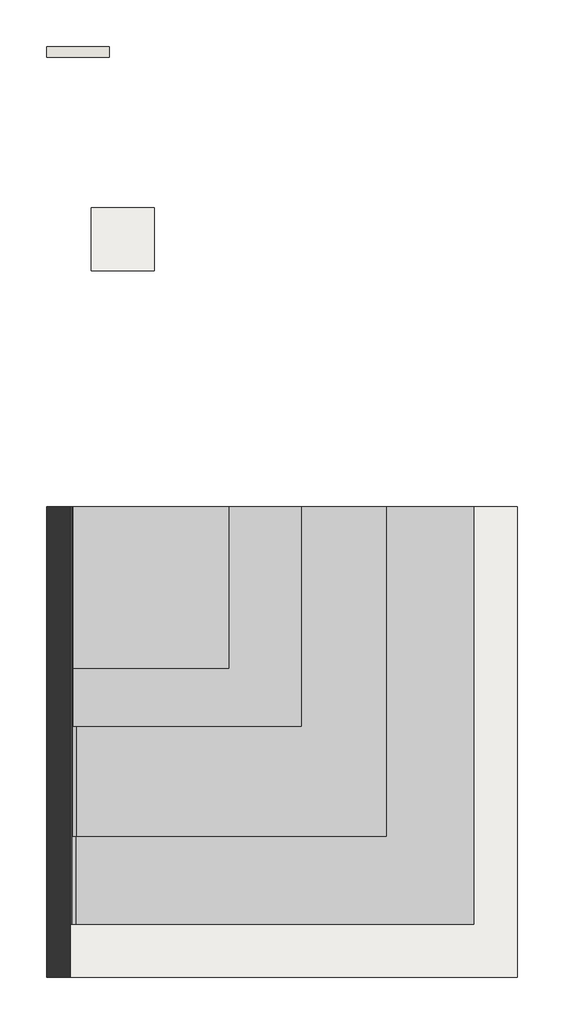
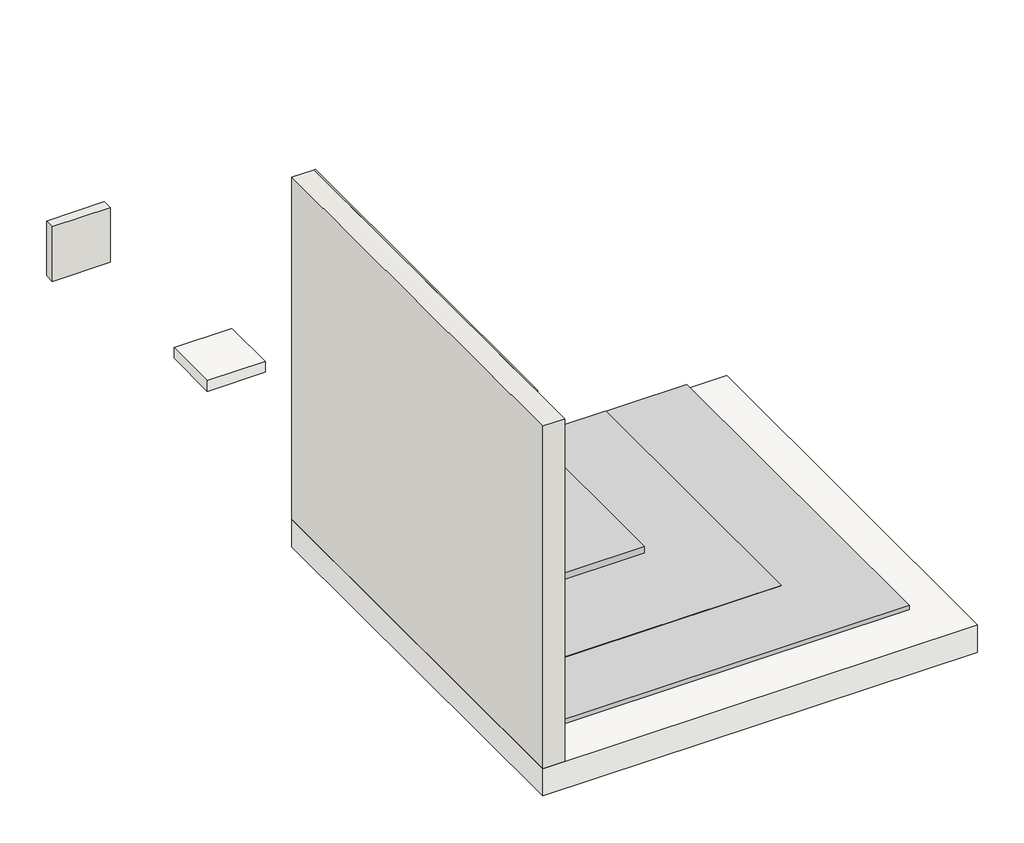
# One storey: 2 slabs, 2 walls, 1 proxy.
"""IFC4 building model written with IfcOpenShell, lengths in millimetres."""

from ifc_helpers import new_model, si_unit, frame, origin, place, context, project, spatial, polyline, outline, extrude, transform, mapped, element, save
from components import generic_models_97afe726

model = new_model("IFC4")

# Units and contexts
model_context = context("Model", 3, world=origin())
ifc_project = project(units=[si_unit("LENGTHUNIT", "METRE", prefix="MILLI")], contexts=[model_context])

# Site, building, storey
site = spatial("IfcSite", under=ifc_project)
building = spatial("IfcBuilding", under=site)
storey = spatial("IfcBuildingStorey", under=building, Name="ARQ Térreo", Elevation=-2.523798)

# Proxy
placement = place(None, origin())
generic_models_shape = generic_models_97afe726(model_context)
element("IfcBuildingElementProxy", 1, Name="IMPER:IMPER:433934 : IMPER:IMPER:433934", ObjectType="IMPER:IMPER:433934 : IMPER:IMPER:433934", at=placement, inside=storey, context=model_context, shape_type="MappedRepresentation", body=[
    mapped(generic_models_shape, transform((0.0, 0.0, 0.0), x_axis=(1.0, 0.0, 0.0), y_axis=(0.0, 1.0, 0.0), z_axis=(0.0, 0.0, 1.0))),
])

# Slabs
element("IfcSlab", 2, ObjectType="IMPH_MANTA VIAPOL ANTIRRUID0", at=placement, inside=storey, context=model_context, shape_type="SweptSolid", body=[
    extrude(outline(polyline([(-216.1419101, 2051.0407158), (183.8580899, 2051.0407158), (183.8580899, 1651.0407158), (-216.1419101, 1651.0407158), (-216.1419101, 2051.0407158)])), frame((0.0, 0.0, -80.523798), z_axis=(0.0, 0.0, 1.0), x_axis=(1.0, 0.0, 0.0)), (0.0, 0.0, 1.0), 78.0),
])
element("IfcSlab", 3, ObjectType="Piso:LAJE CONCRETO", at=placement, inside=storey, context=model_context, shape_type="SweptSolid", body=[
    extrude(outline(polyline([(-501.9704105, 145.8700195), (2498.0295895, 145.8700195), (2498.0295895, -2854.1299805), (-501.9704105, -2854.1299805), (-501.9704105, 145.8700195)])), frame((0.0, 0.0, -202.523798), z_axis=(0.0, 0.0, 1.0), x_axis=(1.0, 0.0, 0.0)), (0.0, 0.0, 1.0), 200.0),
])

# Walls
element("IfcWall", 4, ObjectType="Parede básica:Parede Concreto", at=placement, inside=storey, context=model_context, shape_type="SweptSolid", body=[
    extrude(outline(polyline([(-501.9704105, -2854.1299805), (-501.9704105, 145.8700195), (-351.9704105, 145.8700195), (-351.9704105, -2854.1299805), (-501.9704105, -2854.1299805)])), frame((0.0, 0.0, -2.523798), z_axis=(0.0, 0.0, 1.0), x_axis=(1.0, 0.0, 0.0)), (0.0, 0.0, 1.0), 2500.0),
])
element("IfcWall", 5, ObjectType="IMPV_MANTA VIAPOL ANTIRRUIDO", at=placement, inside=storey, context=model_context, shape_type="SweptSolid", body=[
    extrude(outline(polyline([(-101.9704105, 3011.8700195), (-501.9704105, 3011.8700195), (-501.9704105, 3079.8700195), (-101.9704105, 3079.8700195), (-101.9704105, 3011.8700195)])), frame((0.0, 0.0, -2.523798), z_axis=(0.0, 0.0, 1.0), x_axis=(1.0, 0.0, 0.0)), (0.0, 0.0, 1.0), 400.0),
])

save(model, "model.ifc")
